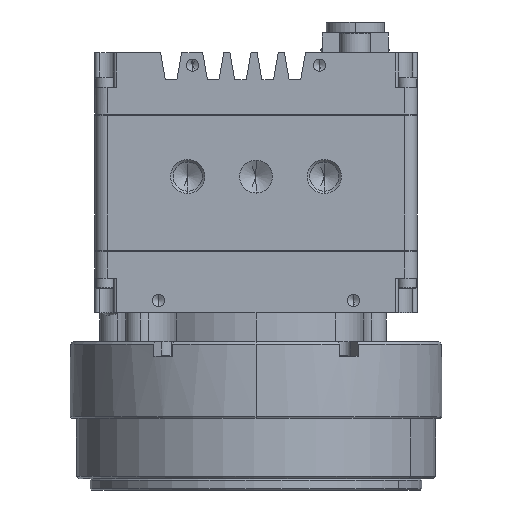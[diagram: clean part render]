
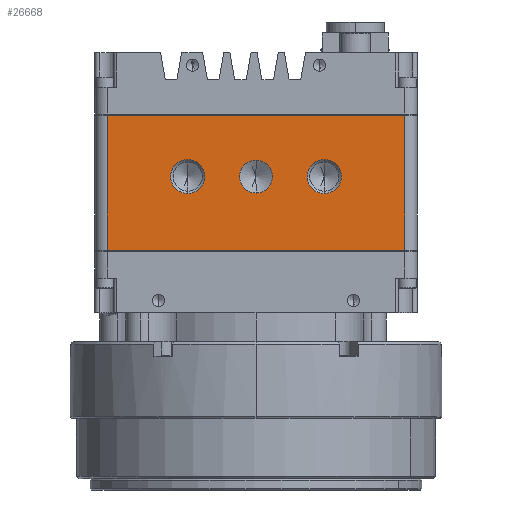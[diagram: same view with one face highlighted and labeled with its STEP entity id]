
A CAD part, front view. The second image highlights one B-rep face of the part: STEP entity #26668.
In plain terms, the highlighted planar face has unit normal (0, -1, 0).
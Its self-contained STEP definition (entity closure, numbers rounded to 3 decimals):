
#496 = CARTESIAN_POINT ( 'NONE',  ( -14., -26.67, -12.7 ) ) ;
#692 = VERTEX_POINT ( 'NONE', #29368 ) ;
#827 = CARTESIAN_POINT ( 'NONE',  ( -30.48, -26.67, -0.127 ) ) ;
#2847 = CARTESIAN_POINT ( 'NONE',  ( -14., -26.67, -12.7 ) ) ;
#3954 = VERTEX_POINT ( 'NONE', #40559 ) ;
#6012 = DIRECTION ( 'NONE',  ( -1., 0., 0. ) ) ;
#7612 = LINE ( 'NONE', #827, #28649 ) ;
#7766 = ORIENTED_EDGE ( 'NONE', *, *, #35415, .F. ) ;
#8665 = AXIS2_PLACEMENT_3D ( 'NONE', #48984, #28185, #19685 ) ;
#9595 = DIRECTION ( 'NONE',  ( -1., 0., 0. ) ) ;
#10391 = AXIS2_PLACEMENT_3D ( 'NONE', #51443, #17933, #13570 ) ;
#11936 = LINE ( 'NONE', #20529, #36276 ) ;
#12597 = ORIENTED_EDGE ( 'NONE', *, *, #36874, .T. ) ;
#13278 = ORIENTED_EDGE ( 'NONE', *, *, #18667, .T. ) ;
#13370 = FACE_BOUND ( 'NONE', #24474, .T. ) ;
#13570 = DIRECTION ( 'NONE',  ( 0., 0., -1. ) ) ;
#13820 = DIRECTION ( 'NONE',  ( 0., 0., 1. ) ) ;
#14053 = VERTEX_POINT ( 'NONE', #44929 ) ;
#15288 = CIRCLE ( 'NONE', #10391, 3.5 ) ;
#15467 = DIRECTION ( 'NONE',  ( 0., -1., 0. ) ) ;
#17037 = VERTEX_POINT ( 'NONE', #41624 ) ;
#17922 = FACE_OUTER_BOUND ( 'NONE', #48397, .T. ) ;
#17933 = DIRECTION ( 'NONE',  ( 0., -1., 0. ) ) ;
#18667 = EDGE_CURVE ( 'NONE', #27373, #3954, #7612, .T. ) ;
#19218 = FACE_BOUND ( 'NONE', #19980, .T. ) ;
#19231 = EDGE_CURVE ( 'NONE', #28098, #46745, #29293, .T. ) ;
#19685 = DIRECTION ( 'NONE',  ( 0., 0., -1. ) ) ;
#19980 = EDGE_LOOP ( 'NONE', ( #35511, #37246 ) ) ;
#20529 = CARTESIAN_POINT ( 'NONE',  ( 30.48, -26.67, 0. ) ) ;
#21974 = ORIENTED_EDGE ( 'NONE', *, *, #45803, .F. ) ;
#22833 = AXIS2_PLACEMENT_3D ( 'NONE', #2847, #15467, #52628 ) ;
#22909 = CARTESIAN_POINT ( 'NONE',  ( -30.48, -26.67, -27.813 ) ) ;
#24474 = EDGE_LOOP ( 'NONE', ( #21974, #39552 ) ) ;
#24727 = ORIENTED_EDGE ( 'NONE', *, *, #48753, .F. ) ;
#24805 = DIRECTION ( 'NONE',  ( 0., 0., 1. ) ) ;
#25432 = DIRECTION ( 'NONE',  ( 0., 0., -1. ) ) ;
#26402 = CARTESIAN_POINT ( 'NONE',  ( 0., -26.67, -12.7 ) ) ;
#26425 = AXIS2_PLACEMENT_3D ( 'NONE', #42147, #46237, #25432 ) ;
#26518 = CARTESIAN_POINT ( 'NONE',  ( 14., -26.67, -9.2 ) ) ;
#26668 = ADVANCED_FACE ( 'NONE', ( #19218, #42998, #13370, #17922 ), #38321, .F. ) ;
#26799 = VECTOR ( 'NONE', #34940, 1000. ) ;
#27373 = VERTEX_POINT ( 'NONE', #43225 ) ;
#28098 = VERTEX_POINT ( 'NONE', #35280 ) ;
#28185 = DIRECTION ( 'NONE',  ( 0., -1., 0. ) ) ;
#28496 = VERTEX_POINT ( 'NONE', #37462 ) ;
#28649 = VECTOR ( 'NONE', #9595, 1000. ) ;
#29293 = CIRCLE ( 'NONE', #22833, 3.5 ) ;
#29368 = CARTESIAN_POINT ( 'NONE',  ( 14., -26.67, -16.2 ) ) ;
#29853 = DIRECTION ( 'NONE',  ( 0., -1., 0. ) ) ;
#29988 = AXIS2_PLACEMENT_3D ( 'NONE', #496, #29853, #50827 ) ;
#31117 = CARTESIAN_POINT ( 'NONE',  ( -33.02, -26.67, 0. ) ) ;
#31330 = CIRCLE ( 'NONE', #29988, 3.5 ) ;
#31501 = EDGE_LOOP ( 'NONE', ( #44074, #7766 ) ) ;
#32101 = EDGE_CURVE ( 'NONE', #14053, #32619, #41606, .T. ) ;
#32619 = VERTEX_POINT ( 'NONE', #52051 ) ;
#34940 = DIRECTION ( 'NONE',  ( 0., 0., -1. ) ) ;
#35280 = CARTESIAN_POINT ( 'NONE',  ( -14., -26.67, -9.2 ) ) ;
#35415 = EDGE_CURVE ( 'NONE', #46483, #692, #15288, .T. ) ;
#35511 = ORIENTED_EDGE ( 'NONE', *, *, #39580, .F. ) ;
#35944 = AXIS2_PLACEMENT_3D ( 'NONE', #26402, #43343, #52128 ) ;
#36276 = VECTOR ( 'NONE', #24805, 1000. ) ;
#36874 = EDGE_CURVE ( 'NONE', #17037, #27373, #11936, .T. ) ;
#37246 = ORIENTED_EDGE ( 'NONE', *, *, #19231, .F. ) ;
#37462 = CARTESIAN_POINT ( 'NONE',  ( -30.48, -26.67, -27.813 ) ) ;
#37974 = LINE ( 'NONE', #38989, #26799 ) ;
#38321 = PLANE ( 'NONE',  #48918 ) ;
#38358 = VECTOR ( 'NONE', #6012, 1000. ) ;
#38989 = CARTESIAN_POINT ( 'NONE',  ( -30.48, -26.67, 0. ) ) ;
#39552 = ORIENTED_EDGE ( 'NONE', *, *, #32101, .F. ) ;
#39580 = EDGE_CURVE ( 'NONE', #46745, #28098, #31330, .T. ) ;
#39650 = LINE ( 'NONE', #22909, #38358 ) ;
#40038 = CARTESIAN_POINT ( 'NONE',  ( -14., -26.67, -16.2 ) ) ;
#40559 = CARTESIAN_POINT ( 'NONE',  ( -30.48, -26.67, -0.127 ) ) ;
#41606 = CIRCLE ( 'NONE', #8665, 3.378 ) ;
#41624 = CARTESIAN_POINT ( 'NONE',  ( 30.48, -26.67, -27.813 ) ) ;
#42147 = CARTESIAN_POINT ( 'NONE',  ( 14., -26.67, -12.7 ) ) ;
#42998 = FACE_BOUND ( 'NONE', #31501, .T. ) ;
#43225 = CARTESIAN_POINT ( 'NONE',  ( 30.48, -26.67, -0.127 ) ) ;
#43343 = DIRECTION ( 'NONE',  ( 0., -1., 0. ) ) ;
#44074 = ORIENTED_EDGE ( 'NONE', *, *, #46379, .F. ) ;
#44929 = CARTESIAN_POINT ( 'NONE',  ( 0., -26.67, -9.322 ) ) ;
#45803 = EDGE_CURVE ( 'NONE', #32619, #14053, #49516, .T. ) ;
#46132 = CIRCLE ( 'NONE', #26425, 3.5 ) ;
#46237 = DIRECTION ( 'NONE',  ( 0., -1., 0. ) ) ;
#46379 = EDGE_CURVE ( 'NONE', #692, #46483, #46132, .T. ) ;
#46483 = VERTEX_POINT ( 'NONE', #26518 ) ;
#46745 = VERTEX_POINT ( 'NONE', #40038 ) ;
#48397 = EDGE_LOOP ( 'NONE', ( #13278, #54278, #24727, #12597 ) ) ;
#48753 = EDGE_CURVE ( 'NONE', #17037, #28496, #39650, .T. ) ;
#48918 = AXIS2_PLACEMENT_3D ( 'NONE', #31117, #52248, #13820 ) ;
#48984 = CARTESIAN_POINT ( 'NONE',  ( 0., -26.67, -12.7 ) ) ;
#49516 = CIRCLE ( 'NONE', #35944, 3.378 ) ;
#50827 = DIRECTION ( 'NONE',  ( 0., 0., -1. ) ) ;
#51443 = CARTESIAN_POINT ( 'NONE',  ( 14., -26.67, -12.7 ) ) ;
#52051 = CARTESIAN_POINT ( 'NONE',  ( 0., -26.67, -16.078 ) ) ;
#52128 = DIRECTION ( 'NONE',  ( 0., 0., -1. ) ) ;
#52215 = EDGE_CURVE ( 'NONE', #3954, #28496, #37974, .T. ) ;
#52248 = DIRECTION ( 'NONE',  ( 0., 1., 0. ) ) ;
#52628 = DIRECTION ( 'NONE',  ( 0., 0., -1. ) ) ;
#54278 = ORIENTED_EDGE ( 'NONE', *, *, #52215, .T. ) ;
